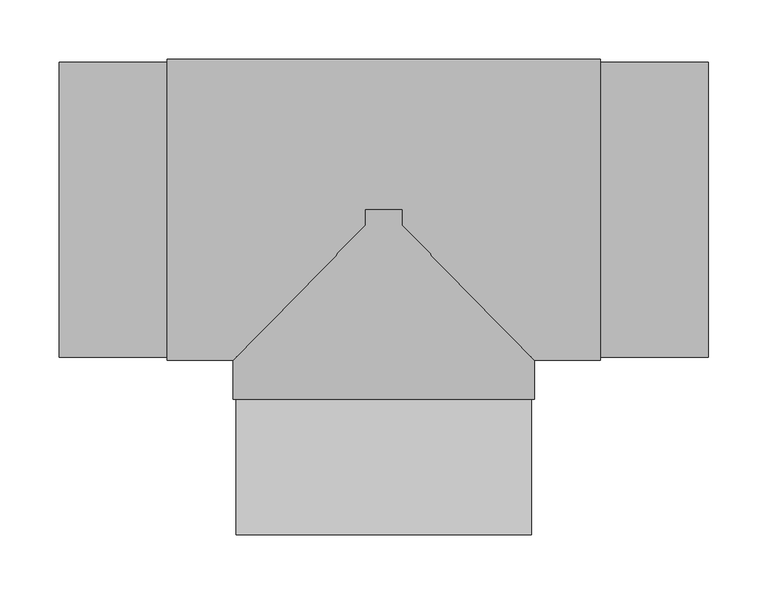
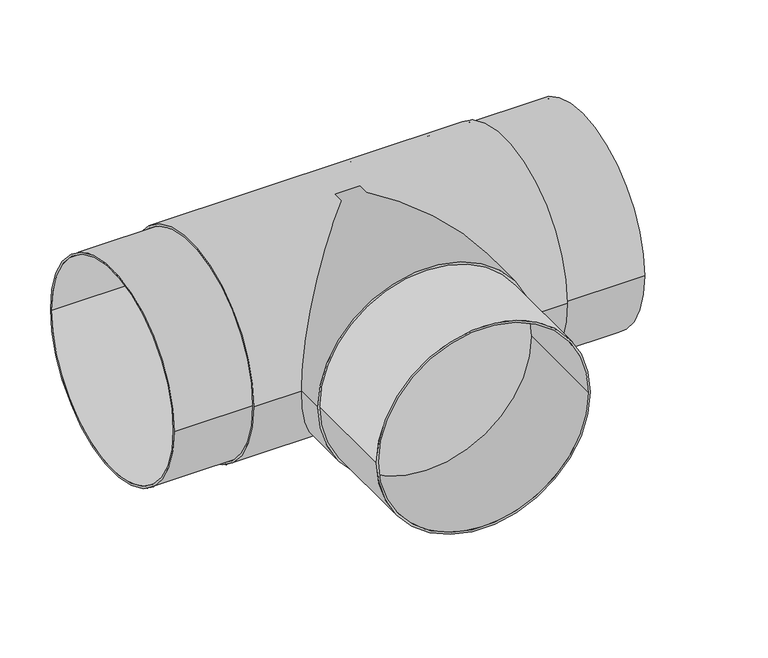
"""IFC4 building model written with IfcOpenShell, lengths in millimetres: pipe fitting geometry, EGB_VASEN_ PPR_Te a tope WXRB300_Te reducida a tope WXRB310 : Te a tope."""

import ifcopenshell
import ifcopenshell.guid

model = None  # the IFC model being written
_history = None  # IfcOwnerHistory: only IFC2X3 demands one
_inside = {}  # id of a spatial element -> (the spatial element, [elements in it])
_under = {}  # id of a project, library or spatial element -> (it, [spatial elements below it])
_declared = {}  # id of a project -> (the project, [libraries it declares])
_typed = {}  # id of a type object -> (the type object, [elements of that type])
_made_of = {}  # id of a material, layer set ... -> (it, [elements and type objects made of it])


def new_model(schema):
    """Start an empty IFC model of exactly this schema.

    Asked for "IFC4X3", IfcOpenShell would pick the latest addendum, in which some entities
    have other attributes; the version numbers below select the first issue.
    IFC2X3 requires an IfcOwnerHistory on every rooted entity: one is made here for all.
    """
    global model, _history
    if schema == "IFC4X3":
        model = ifcopenshell.file(schema_version=(4, 3, 0, 0))
    else:
        model = ifcopenshell.file(schema=schema)
    _inside.clear()
    _under.clear()
    _declared.clear()
    _typed.clear()
    _made_of.clear()
    _history = None
    if model.schema == "IFC2X3":
        org = make("IfcOrganization", Name="unknown")
        user = make(
            "IfcPersonAndOrganization",
            ThePerson=make("IfcPerson", FamilyName="unknown"),
            TheOrganization=org,
        )
        app = make(
            "IfcApplication",
            ApplicationDeveloper=org,
            Version="unknown",
            ApplicationFullName="unknown",
            ApplicationIdentifier="unknown",
        )
        _history = make(
            "IfcOwnerHistory",
            OwningUser=user,
            OwningApplication=app,
            ChangeAction="ADDED",
            CreationDate=0,
        )
    return model


def make(cls, **values):
    """One entity of the class cls with the attributes given. An attribute that is None is left unset."""
    return model.create_entity(
        cls, **{name: value for name, value in values.items() if value is not None}
    )


def rooted(cls, **values):
    """An entity with a GlobalId (a new one), such as an element, a storey or a relation."""
    return make(cls, GlobalId=ifcopenshell.guid.new(), OwnerHistory=_history, **values)


def si_unit(unit_type, name, prefix=None):
    """IfcSIUnit, for example si_unit("LENGTHUNIT", "METRE", prefix="MILLI")."""
    return make("IfcSIUnit", UnitType=unit_type, Prefix=prefix, Name=name)


def assignment(units):
    """IfcUnitAssignment: the units of a project."""
    return None if units is None else make("IfcUnitAssignment", Units=units)


def point(xyz):
    """IfcCartesianPoint."""
    return None if xyz is None else make("IfcCartesianPoint", Coordinates=xyz)


def direction(xyz):
    """IfcDirection."""
    return None if xyz is None else make("IfcDirection", DirectionRatios=xyz)


def frame(location, z_axis=None, x_axis=None):
    """IfcAxis2Placement3D, a coordinate frame: its origin and axes. An axis left out is left unset."""
    return make(
        "IfcAxis2Placement3D",
        Location=point(location),
        Axis=direction(z_axis),
        RefDirection=direction(x_axis),
    )


def frame_2d(location, x_axis=None):
    """IfcAxis2Placement2D, a coordinate frame in the plane: its origin and x axis."""
    return make(
        "IfcAxis2Placement2D", Location=point(location), RefDirection=direction(x_axis)
    )


def origin():
    """The frame at (0, 0, 0) with its axes left unset."""
    return frame((0.0, 0.0, 0.0))


def origin_2d():
    """The frame at (0, 0) in the plane with its x axis left unset."""
    return frame_2d((0.0, 0.0))


def place(relative_to, where):
    """IfcLocalPlacement: puts the frame where relative to a parent placement (None: the world)."""
    return make(
        "IfcLocalPlacement", PlacementRelTo=relative_to, RelativePlacement=where
    )


def context(
    kind, dimensions, precision=None, world=None, true_north=None, identifier=None
):
    """IfcGeometricRepresentationContext, for example the 3D "Model" context."""
    return make(
        "IfcGeometricRepresentationContext",
        ContextIdentifier=identifier,
        ContextType=kind,
        CoordinateSpaceDimension=dimensions,
        Precision=precision,
        WorldCoordinateSystem=world,
        TrueNorth=true_north,
    )


def project(units=None, contexts=None):
    """IfcProject with its units and contexts."""
    return rooted(
        "IfcProject",
        Name="project",
        RepresentationContexts=contexts,
        UnitsInContext=assignment(units),
    )


def spatial(cls, under=None, at=None, **own):
    """A site, building, storey or space (cls), placed at a placement, below another one or the project."""
    s = rooted(cls, ObjectPlacement=at, **own)
    if under is not None:
        _under.setdefault(under.id(), (under, []))[1].append(s)
    return s


def circle_curve(where, radius):
    """IfcCircle in the frame where."""
    return make("IfcCircle", Position=where, Radius=radius)


def trimmed(basis, trim1, trim2, sense, master):
    """IfcTrimmedCurve: the piece of a basis curve between two trims."""
    return make(
        "IfcTrimmedCurve",
        BasisCurve=basis,
        Trim1=trim1,
        Trim2=trim2,
        SenseAgreement=sense,
        MasterRepresentation=master,
    )


def segment(curve, same_sense, transition):
    """IfcCompositeCurveSegment."""
    return make(
        "IfcCompositeCurveSegment",
        Transition=transition,
        SameSense=same_sense,
        ParentCurve=curve,
    )


def composite_curve(segments, self_intersect=None):
    """IfcCompositeCurve: segments joined end to end."""
    return make("IfcCompositeCurve", Segments=segments, SelfIntersect=self_intersect)


def outline(outer, holes=None, kind="AREA"):
    """IfcArbitraryClosedProfileDef: a profile drawn as a closed curve; with holes, ...WithVoids."""
    if holes is None:
        return make("IfcArbitraryClosedProfileDef", ProfileType=kind, OuterCurve=outer)
    return make(
        "IfcArbitraryProfileDefWithVoids",
        ProfileType=kind,
        OuterCurve=outer,
        InnerCurves=holes,
    )


def extrude(swept, where, along, depth):
    """IfcExtrudedAreaSolid: the profile swept, set in the frame where, extruded along a direction by depth."""
    return make(
        "IfcExtrudedAreaSolid",
        SweptArea=swept,
        Position=where,
        ExtrudedDirection=direction(along),
        Depth=depth,
    )


def shape(context_of_items, identifier, shape_type, items):
    """IfcShapeRepresentation: the items that make up one representation, for example the "Body"."""
    return make(
        "IfcShapeRepresentation",
        ContextOfItems=context_of_items,
        RepresentationIdentifier=identifier,
        RepresentationType=shape_type,
        Items=items,
    )


def source(mapping_origin, context_of_items, identifier, shape_type, items):
    """IfcRepresentationMap: a shape defined once, which mapped items show again and again."""
    return make(
        "IfcRepresentationMap",
        MappingOrigin=mapping_origin,
        MappedRepresentation=shape(context_of_items, identifier, shape_type, items),
    )


def transform(
    local_origin,
    x_axis=None,
    y_axis=None,
    z_axis=None,
    scale=None,
    scale2=None,
    scale3=None,
    uniform=True,
):
    """IfcCartesianTransformationOperator3D, or its non-uniform kind. x_axis, y_axis, z_axis: its Axis1, 2, 3."""
    if uniform:
        return make(
            "IfcCartesianTransformationOperator3D",
            Axis1=direction(x_axis),
            Axis2=direction(y_axis),
            LocalOrigin=point(local_origin),
            Scale=scale,
            Axis3=direction(z_axis),
        )
    return make(
        "IfcCartesianTransformationOperator3DnonUniform",
        Axis1=direction(x_axis),
        Axis2=direction(y_axis),
        LocalOrigin=point(local_origin),
        Scale=scale,
        Axis3=direction(z_axis),
        Scale2=scale2,
        Scale3=scale3,
    )


def mapped(mapping_source, mapping_target):
    """IfcMappedItem: shows the shape of a source again, moved by a transform."""
    return make(
        "IfcMappedItem", MappingSource=mapping_source, MappingTarget=mapping_target
    )


def made_of(thing, what):
    """Note that an element or type object is made of a material, layer set ...; save() writes the relation."""
    if what is not None:
        _made_of.setdefault(what.id(), (what, []))[1].append(thing)
    return thing


def element(
    cls,
    number,
    at=None,
    inside=None,
    cuts=None,
    type_object=None,
    material=None,
    context=None,
    identifier="Body",
    shape_type=None,
    held_by="IfcProductDefinitionShape",
    body=None,
    shapes=None,
    **own,
):
    """One element of the class cls, such as IfcWall. Its Tag is "e" and its number.

    at: its placement. inside: the storey or other place that contains it. cuts: it is an
    opening in that element (IfcRelVoidsElement). A single representation is given by context,
    identifier, shape_type and body (its items); several are given by shapes. held_by: the class
    of the entity that holds the representations. save() writes the other relations.
    """
    e = rooted(cls, Tag="e%d" % number, ObjectPlacement=at, **own)
    if body is not None:
        shapes = [shape(context, identifier, shape_type, body)]
    if shapes is not None:
        e.Representation = make(held_by, Representations=shapes)
    if inside is not None:
        _inside.setdefault(inside.id(), (inside, []))[1].append(e)
    if cuts is not None:
        rooted(
            "IfcRelVoidsElement", RelatingBuildingElement=cuts, RelatedOpeningElement=e
        )
    if type_object is not None:
        _typed.setdefault(type_object.id(), (type_object, []))[1].append(e)
    return made_of(e, material)


def aggregate(whole, parts):
    """IfcRelAggregates: a whole, such as a stair, and the parts it consists of."""
    return rooted("IfcRelAggregates", RelatingObject=whole, RelatedObjects=parts)


def save(model, path):
    """Write the relations noted so far, then the file.

    IfcRelAggregates (storeys below a building ...), IfcRelContainedInSpatialStructure (elements
    in a storey), IfcRelDefinesByType, IfcRelAssociatesMaterial and IfcRelDeclares: one each for
    every whole, place, type object, material and project.
    """
    for whole, parts in _under.values():
        aggregate(whole, parts)
    for where, things in _inside.values():
        rooted(
            "IfcRelContainedInSpatialStructure",
            RelatedElements=things,
            RelatingStructure=where,
        )
    for kind, things in _typed.values():
        rooted("IfcRelDefinesByType", RelatedObjects=things, RelatingType=kind)
    for what, things in _made_of.values():
        rooted("IfcRelAssociatesMaterial", RelatedObjects=things, RelatingMaterial=what)
    for by, libraries in _declared.values():
        rooted("IfcRelDeclares", RelatingContext=by, RelatedDefinitions=libraries)
    model.write(path)


def pipe_fitting_7837483c(model_context):
    return source(origin(), model_context, "Body", "SweptSolid", [
        extrude(outline(composite_curve([segment(trimmed(circle_curve(origin_2d(), 125.0), [point((0.0, 125.0))], [point((0.0, -125.0))], False, "CARTESIAN"), True, "CONTINUOUS"), segment(trimmed(circle_curve(origin_2d(), 125.0), [point((0.0, -125.0))], [point((0.0, 125.0))], False, "CARTESIAN"), True, "CONTINUOUS")], self_intersect=False), holes=[composite_curve([segment(trimmed(circle_curve(origin_2d(), 122.5), [point((0.0, 122.5))], [point((0.0, -122.5))], True, "CARTESIAN"), True, "CONTINUOUS"), segment(trimmed(circle_curve(origin_2d(), 122.5), [point((0.0, -122.5))], [point((0.0, 122.5))], True, "CARTESIAN"), True, "CONTINUOUS")], self_intersect=False)]), frame((0.0, -275.0, 0.0), z_axis=(0.0, 1.0, 0.0), x_axis=(0.0, 0.0, 1.0)), (0.0, 0.0, 1.0), 114.5),
        extrude(outline(composite_curve([segment(trimmed(circle_curve(origin_2d(), 127.5), [point((0.0, 127.5))], [point((0.0, -127.5))], False, "CARTESIAN"), True, "CONTINUOUS"), segment(trimmed(circle_curve(origin_2d(), 127.5), [point((0.0, -127.5))], [point((0.0, 127.5))], False, "CARTESIAN"), True, "CONTINUOUS")], self_intersect=False)), frame((0.0, -160.5, 0.0), z_axis=(0.0, 1.0, 0.0), x_axis=(0.0, 0.0, 1.0)), (0.0, 0.0, 1.0), 160.5),
        extrude(outline(composite_curve([segment(trimmed(circle_curve(origin_2d(), 127.5), [point((-127.5, 0.0))], [point((127.5, 0.0))], False, "CARTESIAN"), True, "CONTINUOUS"), segment(trimmed(circle_curve(origin_2d(), 127.5), [point((127.5, 0.0))], [point((-127.5, 0.0))], False, "CARTESIAN"), True, "CONTINUOUS")], self_intersect=False), holes=[composite_curve([segment(trimmed(circle_curve(origin_2d(), 125.0), [point((-125.0, 0.0))], [point((125.0, 0.0))], True, "CARTESIAN"), True, "CONTINUOUS"), segment(trimmed(circle_curve(origin_2d(), 125.0), [point((125.0, 0.0))], [point((-125.0, 0.0))], True, "CARTESIAN"), True, "CONTINUOUS")], self_intersect=False)]), frame((-183.3333333, 0.0, 0.0), z_axis=(1.0, 0.0, 0.0), x_axis=(0.0, 1.0, 0.0)), (0.0, 0.0, 1.0), 366.6666667),
        extrude(outline(composite_curve([segment(trimmed(circle_curve(origin_2d(), 125.0), [point((-125.0, 0.0))], [point((125.0, 0.0))], False, "CARTESIAN"), True, "CONTINUOUS"), segment(trimmed(circle_curve(origin_2d(), 125.0), [point((125.0, 0.0))], [point((-125.0, 0.0))], False, "CARTESIAN"), True, "CONTINUOUS")], self_intersect=False), holes=[composite_curve([segment(trimmed(circle_curve(origin_2d(), 122.5), [point((-122.5, 0.0))], [point((122.5, 0.0))], True, "CARTESIAN"), True, "CONTINUOUS"), segment(trimmed(circle_curve(origin_2d(), 122.5), [point((122.5, 0.0))], [point((-122.5, 0.0))], True, "CARTESIAN"), True, "CONTINUOUS")], self_intersect=False)]), frame((-275.0, 0.0, 0.0), z_axis=(1.0, 0.0, 0.0), x_axis=(0.0, 1.0, 0.0)), (0.0, 0.0, 1.0), 550.0),
    ])


if __name__ == "__main__":
    model = new_model("IFC4")
    model_context = context("Model", 3, world=origin())
    ifc_project = project(units=[si_unit("LENGTHUNIT", "METRE", prefix="MILLI")], contexts=[model_context])
    site = spatial("IfcSite", under=ifc_project)
    building = spatial("IfcBuilding", under=site)
    placement = place(None, origin())
    pipe_fitting_shape = pipe_fitting_7837483c(model_context)
    element("IfcPipeFitting", 1, ObjectType="EGB_VASEN_ PPR_Te a tope WXRB300_Te reducida a tope WXRB310 : Te a tope", at=placement, inside=building, context=model_context, shape_type="MappedRepresentation", body=[
        mapped(pipe_fitting_shape, transform((0.0, 0.0, 0.0), x_axis=(1.0, 0.0, 0.0), y_axis=(0.0, 1.0, 0.0), z_axis=(0.0, 0.0, 1.0))),
    ])
    save(model, "model.ifc")
